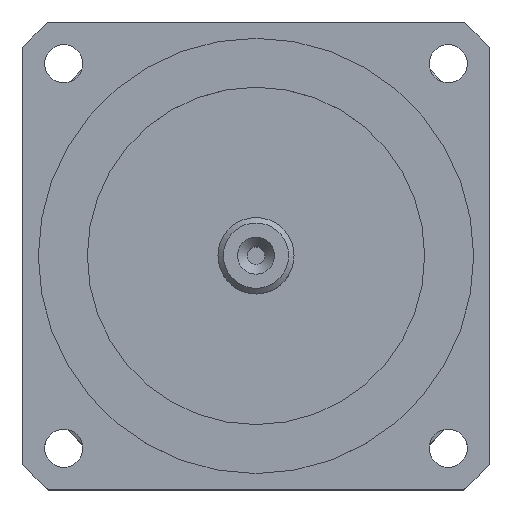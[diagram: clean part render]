
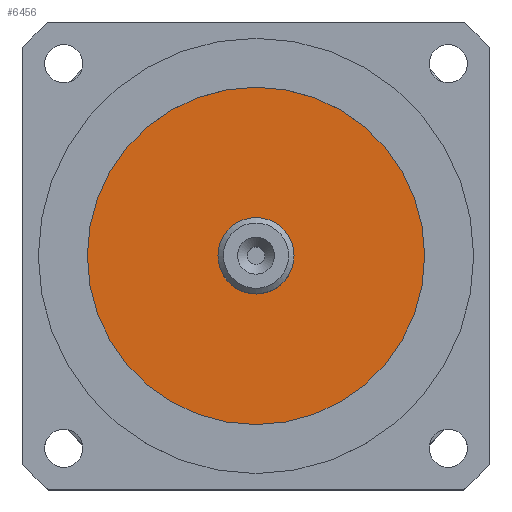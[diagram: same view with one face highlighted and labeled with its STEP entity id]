
A CAD part, top view. The second image highlights one B-rep face of the part: STEP entity #6456.
In plain terms, the highlighted planar face has unit normal (0, 0, 1).
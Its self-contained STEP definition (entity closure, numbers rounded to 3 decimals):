
#2321=VERTEX_POINT('',#9214);
#2330=VERTEX_POINT('',#9306);
#2799=CIRCLE('',#6987,7.);
#2808=CIRCLE('',#6998,31.);
#3259=EDGE_CURVE('',#2321,#2321,#2799,.T.);
#3268=EDGE_CURVE('',#2330,#2330,#2808,.T.);
#4189=ORIENTED_EDGE('',*,*,#3268,.T.);
#4190=ORIENTED_EDGE('',*,*,#3259,.T.);
#5537=EDGE_LOOP('',(#4189));
#5538=EDGE_LOOP('',(#4190));
#6015=FACE_BOUND('',#5537,.T.);
#6016=FACE_BOUND('',#5538,.T.);
#6456=ADVANCED_FACE('',(#6015,#6016),#8032,.F.);
#6987=AXIS2_PLACEMENT_3D('',#9213,#11889,#11890);
#6998=AXIS2_PLACEMENT_3D('',#9305,#11910,#11911);
#7000=AXIS2_PLACEMENT_3D('',#9309,#11914,$);
#8032=PLANE('',#7000);
#9213=CARTESIAN_POINT('',(0.,0.,137.5));
#9214=CARTESIAN_POINT('',(7.,0.,137.5));
#9305=CARTESIAN_POINT('',(0.,0.,137.5));
#9306=CARTESIAN_POINT('',(31.,0.,137.5));
#9309=CARTESIAN_POINT('',(0.,0.,137.5));
#11889=DIRECTION('',(0.,0.,-1.));
#11890=DIRECTION('',(-7.,0.,0.));
#11910=DIRECTION('',(0.,0.,1.));
#11911=DIRECTION('',(-31.,0.,0.));
#11914=DIRECTION('',(0.,0.,-1.));
